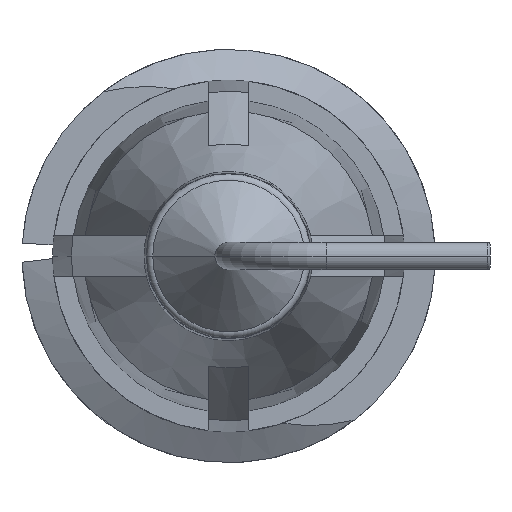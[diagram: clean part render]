
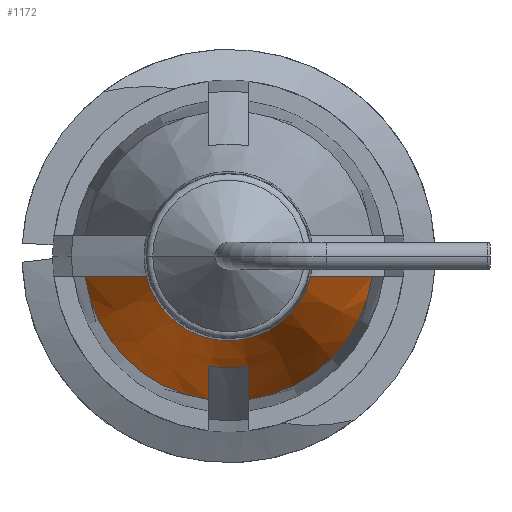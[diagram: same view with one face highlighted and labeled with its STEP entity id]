
A CAD part, front view. The second image highlights one B-rep face of the part: STEP entity #1172.
In plain terms, the highlighted conical face has half-angle 20 degrees and reference radius 2.745 mm.
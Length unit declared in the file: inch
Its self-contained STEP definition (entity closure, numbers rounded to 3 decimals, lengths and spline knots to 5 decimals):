
#35 = CARTESIAN_POINT ( 'NONE',  ( -0.06119, -0.52985, -0.015 ) ) ;
#84 = CARTESIAN_POINT ( 'NONE',  ( 0.015, -0.42866, -0.0987 ) ) ;
#190 = CARTESIAN_POINT ( 'NONE',  ( 0., -0.406, 0. ) ) ;
#232 = AXIS2_PLACEMENT_3D ( 'NONE', #2416, #2370, #568 ) ;
#252 = CARTESIAN_POINT ( 'NONE',  ( 0., -0.406, 0. ) ) ;
#265 = DIRECTION ( 'NONE',  ( 0., 1., 0. ) ) ;
#438 = ORIENTED_EDGE ( 'NONE', *, *, #4640, .F. ) ;
#541 = CARTESIAN_POINT ( 'NONE',  ( 0.09185, -0.44732, -0.015 ) ) ;
#568 = DIRECTION ( 'NONE',  ( 1., 0., 0. ) ) ;
#728 = VERTEX_POINT ( 'NONE', #4154 ) ;
#864 = CARTESIAN_POINT ( 'NONE',  ( -0.10703, -0.406, -0.015 ) ) ;
#879 = VERTEX_POINT ( 'NONE', #3986 ) ;
#903 = VERTEX_POINT ( 'NONE', #35 ) ;
#929 = CARTESIAN_POINT ( 'NONE',  ( 0.07664, -0.48863, -0.015 ) ) ;
#942 = CARTESIAN_POINT ( 'NONE',  ( -0.015, -0.42866, -0.0987 ) ) ;
#989 = CARTESIAN_POINT ( 'NONE',  ( 0.10703, -0.406, -0.015 ) ) ;
#990 = AXIS2_PLACEMENT_3D ( 'NONE', #1681, #265, #3167 ) ;
#1113 = ORIENTED_EDGE ( 'NONE', *, *, #4035, .F. ) ;
#1119 = B_SPLINE_CURVE_WITH_KNOTS ( 'NONE', 3,
 ( #1963, #929, #541, #4111 ),
 .UNSPECIFIED., .F., .F.,
 ( 4, 4 ),
 ( 0.00282, 0.00617 ),
 .UNSPECIFIED. ) ;
#1134 = CARTESIAN_POINT ( 'NONE',  ( -0.015, -0.47395, -0.08198 ) ) ;
#1172 = ADVANCED_FACE ( 'NONE', ( #4165 ), #4419, .T. ) ;
#1219 = CARTESIAN_POINT ( 'NONE',  ( 0.015, -0.47395, -0.08198 ) ) ;
#1253 = VERTEX_POINT ( 'NONE', #3515 ) ;
#1259 = DIRECTION ( 'NONE',  ( 1., 0., 0. ) ) ;
#1455 = DIRECTION ( 'NONE',  ( -1., 0., 0. ) ) ;
#1571 = CARTESIAN_POINT ( 'NONE',  ( -0.015, -0.45131, -0.09036 ) ) ;
#1597 = CARTESIAN_POINT ( 'NONE',  ( -0.015, -0.406, -0.10703 ) ) ;
#1646 = CIRCLE ( 'NONE', #2559, 0.10808 ) ;
#1681 = CARTESIAN_POINT ( 'NONE',  ( 0., -0.52985, 0. ) ) ;
#1733 = ORIENTED_EDGE ( 'NONE', *, *, #1925, .F. ) ;
#1788 = CARTESIAN_POINT ( 'NONE',  ( 0.015, -0.406, -0.10703 ) ) ;
#1796 = B_SPLINE_CURVE_WITH_KNOTS ( 'NONE', 3,
 ( #1907, #2988, #4451, #864 ),
 .UNSPECIFIED., .F., .F.,
 ( 4, 4 ),
 ( 0.00282, 0.00617 ),
 .UNSPECIFIED. ) ;
#1809 = B_SPLINE_CURVE_WITH_KNOTS ( 'NONE', 3,
 ( #1788, #84, #3987, #2576 ),
 .UNSPECIFIED., .F., .F.,
 ( 4, 4 ),
 ( 0.00343, 0.00527 ),
 .UNSPECIFIED. ) ;
#1885 = ORIENTED_EDGE ( 'NONE', *, *, #3725, .T. ) ;
#1901 = CIRCLE ( 'NONE', #990, 0.063 ) ;
#1907 = CARTESIAN_POINT ( 'NONE',  ( -0.06119, -0.52985, -0.015 ) ) ;
#1925 = EDGE_CURVE ( 'NONE', #3479, #2420, #3011, .T. ) ;
#1963 = CARTESIAN_POINT ( 'NONE',  ( 0.06119, -0.52985, -0.015 ) ) ;
#2161 = CIRCLE ( 'NONE', #4529, 0.10808 ) ;
#2234 = EDGE_CURVE ( 'NONE', #2420, #728, #2161, .T. ) ;
#2305 = CARTESIAN_POINT ( 'NONE',  ( -0.015, -0.47395, -0.08198 ) ) ;
#2370 = DIRECTION ( 'NONE',  ( 0., 1., 0. ) ) ;
#2416 = CARTESIAN_POINT ( 'NONE',  ( 0., -0.406, 0. ) ) ;
#2420 = VERTEX_POINT ( 'NONE', #3029 ) ;
#2545 = EDGE_CURVE ( 'NONE', #4473, #1253, #1646, .T. ) ;
#2559 = AXIS2_PLACEMENT_3D ( 'NONE', #190, #2744, #4148 ) ;
#2576 = CARTESIAN_POINT ( 'NONE',  ( 0.015, -0.47395, -0.08198 ) ) ;
#2702 = ORIENTED_EDGE ( 'NONE', *, *, #4577, .T. ) ;
#2744 = DIRECTION ( 'NONE',  ( 0., 1., 0. ) ) ;
#2988 = CARTESIAN_POINT ( 'NONE',  ( -0.07664, -0.48863, -0.015 ) ) ;
#3011 = B_SPLINE_CURVE_WITH_KNOTS ( 'NONE', 3,
 ( #2305, #1571, #942, #1597 ),
 .UNSPECIFIED., .F., .F.,
 ( 4, 4 ),
 ( 0.00247, 0.00431 ),
 .UNSPECIFIED. ) ;
#3029 = CARTESIAN_POINT ( 'NONE',  ( -0.015, -0.406, -0.10703 ) ) ;
#3036 = ORIENTED_EDGE ( 'NONE', *, *, #2545, .F. ) ;
#3080 = EDGE_CURVE ( 'NONE', #3648, #3479, #3551, .T. ) ;
#3109 = EDGE_LOOP ( 'NONE', ( #1113, #2702, #1885, #4023, #1733, #3741, #438, #3036 ) ) ;
#3167 = DIRECTION ( 'NONE',  ( 1., 0., 0. ) ) ;
#3168 = AXIS2_PLACEMENT_3D ( 'NONE', #3904, #4661, #1455 ) ;
#3479 = VERTEX_POINT ( 'NONE', #1134 ) ;
#3515 = CARTESIAN_POINT ( 'NONE',  ( 0.015, -0.406, -0.10703 ) ) ;
#3551 = CIRCLE ( 'NONE', #3168, 0.08335 ) ;
#3648 = VERTEX_POINT ( 'NONE', #1219 ) ;
#3725 = EDGE_CURVE ( 'NONE', #903, #728, #1796, .T. ) ;
#3741 = ORIENTED_EDGE ( 'NONE', *, *, #3080, .F. ) ;
#3904 = CARTESIAN_POINT ( 'NONE',  ( 0., -0.47395, 0. ) ) ;
#3986 = CARTESIAN_POINT ( 'NONE',  ( 0.06119, -0.52985, -0.015 ) ) ;
#3987 = CARTESIAN_POINT ( 'NONE',  ( 0.015, -0.45131, -0.09036 ) ) ;
#4023 = ORIENTED_EDGE ( 'NONE', *, *, #2234, .F. ) ;
#4035 = EDGE_CURVE ( 'NONE', #879, #4473, #1119, .T. ) ;
#4111 = CARTESIAN_POINT ( 'NONE',  ( 0.10703, -0.406, -0.015 ) ) ;
#4148 = DIRECTION ( 'NONE',  ( 1., 0., 0. ) ) ;
#4154 = CARTESIAN_POINT ( 'NONE',  ( -0.10703, -0.406, -0.015 ) ) ;
#4165 = FACE_OUTER_BOUND ( 'NONE', #3109, .T. ) ;
#4419 = CONICAL_SURFACE ( 'NONE', #232, 0.10808, 0.349 ) ;
#4451 = CARTESIAN_POINT ( 'NONE',  ( -0.09185, -0.44732, -0.015 ) ) ;
#4473 = VERTEX_POINT ( 'NONE', #989 ) ;
#4529 = AXIS2_PLACEMENT_3D ( 'NONE', #252, #4611, #1259 ) ;
#4577 = EDGE_CURVE ( 'NONE', #879, #903, #1901, .T. ) ;
#4611 = DIRECTION ( 'NONE',  ( 0., 1., 0. ) ) ;
#4640 = EDGE_CURVE ( 'NONE', #1253, #3648, #1809, .T. ) ;
#4661 = DIRECTION ( 'NONE',  ( 0., 1., 0. ) ) ;
